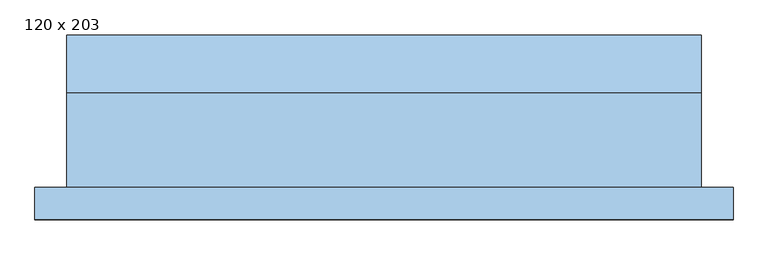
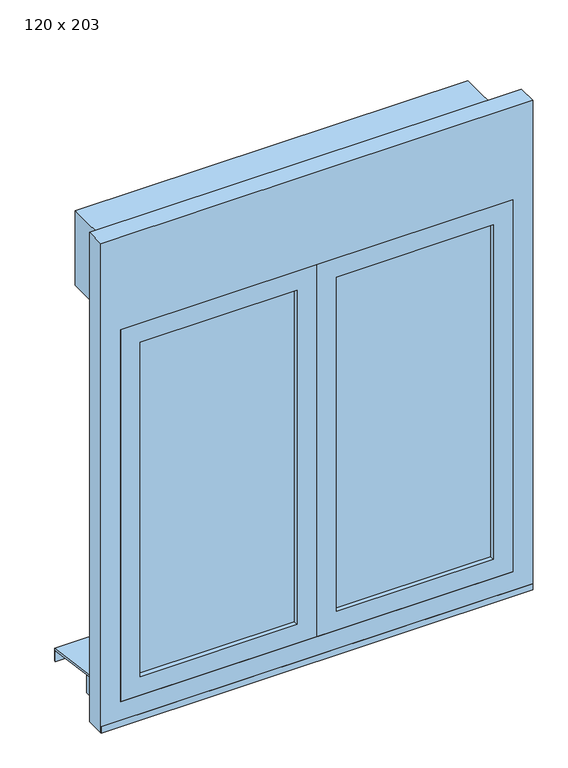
"""IFC4 building model written with IfcOpenShell, lengths in millimetres: window geometry, AD 2-flg - Verblendet : 120 x 203."""

from ifc_helpers import new_model, si_unit, frame, origin, place, context, project, spatial, polyline, outline, extrude, source, transform, mapped, element, save


def window_120_x_203_22d15c25(model_context):
    return source(origin(), model_context, "Body", "SweptSolid", [
        extrude(outline(polyline([(200.0, 810.0), (200.0, 770.0), (195.0, 770.0), (195.0, 805.7364044), (-89.0, 844.9364044), (-89.0, 850.0), (200.0, 810.0)])), frame((-680.0, 0.0, 0.0), z_axis=(1.0, 0.0, 0.0), x_axis=(0.0, 1.0, 0.0)), (0.0, 0.0, 1.0), 1200.0),
        extrude(outline(polyline([(520.0, 90.0), (520.0, -89.0), (-680.0, -89.0), (-680.0, 90.0), (520.0, 90.0)])), frame((0.0, 0.0, 2050.0), z_axis=(0.0, 0.0, 1.0), x_axis=(1.0, 0.0, 0.0)), (0.0, 0.0, 1.0), 240.0),
        extrude(outline(polyline([(460.0, -134.0), (-20.0, -134.0), (-20.0, -104.0), (460.0, -104.0), (460.0, -134.0)])), frame((0.0, 0.0, 910.0), z_axis=(0.0, 0.0, 1.0), x_axis=(1.0, 0.0, 0.0)), (0.0, 0.0, 1.0), 1080.0),
        extrude(outline(polyline([(-140.0, -134.0), (-620.0, -134.0), (-620.0, -104.0), (-140.0, -104.0), (-140.0, -134.0)])), frame((0.0, 0.0, 910.0), z_axis=(0.0, 0.0, 1.0), x_axis=(1.0, 0.0, 0.0)), (0.0, 0.0, 1.0), 1080.0),
        extrude(outline(polyline([(-89.0, 770.0), (-89.0, 844.9364044), (30.0, 828.5110523), (30.0, 770.0), (-89.0, 770.0)])), frame((-680.0, 0.0, 0.0), z_axis=(1.0, 0.0, 0.0), x_axis=(0.0, 1.0, 0.0)), (0.0, 0.0, 1.0), 1200.0),
        extrude(outline(polyline([(2050.0, -80.0), (2050.0, -680.0), (850.0, -680.0), (850.0, -80.0), (2050.0, -80.0)]), holes=[polyline([(1990.0, -140.0), (910.0, -140.0), (910.0, -620.0), (1990.0, -620.0), (1990.0, -140.0)])]), frame((0.0, -149.0, 0.0), z_axis=(0.0, 1.0, 0.0), x_axis=(0.0, 0.0, 1.0)), (0.0, 0.0, 1.0), 60.0),
        extrude(outline(polyline([(2050.0, -80.0), (850.0, -80.0), (850.0, 520.0), (2050.0, 520.0), (2050.0, -80.0)]), holes=[polyline([(1990.0, -20.0), (1990.0, 460.0), (910.0, 460.0), (910.0, -20.0), (1990.0, -20.0)])]), frame((0.0, -149.0, 0.0), z_axis=(0.0, 1.0, 0.0), x_axis=(0.0, 0.0, 1.0)), (0.0, 0.0, 1.0), 60.0),
        extrude(outline(polyline([(2350.0, 580.0), (2350.0, -740.0), (770.0, -740.0), (770.0, 580.0), (2350.0, 580.0)]), holes=[polyline([(2050.0, 520.0), (850.0, 520.0), (850.0, -680.0), (2050.0, -680.0), (2050.0, 520.0)])]), frame((0.0, -149.0, 0.0), z_axis=(0.0, 1.0, 0.0), x_axis=(0.0, 0.0, 1.0)), (0.0, 0.0, 1.0), 60.0),
        extrude(outline(polyline([(580.0, -149.0), (580.0, -150.0), (-740.0, -150.0), (-740.0, -149.0), (580.0, -149.0)])), frame((0.0, 0.0, 770.0), z_axis=(0.0, 0.0, 1.0), x_axis=(1.0, 0.0, 0.0)), (0.0, 0.0, 1.0), 20.0),
    ])


if __name__ == "__main__":
    model = new_model("IFC4")
    model_context = context("Model", 3, world=origin())
    ifc_project = project(units=[si_unit("LENGTHUNIT", "METRE", prefix="MILLI")], contexts=[model_context])
    site = spatial("IfcSite", under=ifc_project)
    building = spatial("IfcBuilding", under=site)
    placement = place(None, origin())
    window_120_x_203_shape = window_120_x_203_22d15c25(model_context)
    element("IfcWindow", 1, ObjectType="AD 2-flg - Verblendet : 120 x 203", at=placement, inside=building, context=model_context, shape_type="MappedRepresentation", body=[
        mapped(window_120_x_203_shape, transform((0.0, 0.0, 0.0), x_axis=(1.0, 0.0, 0.0), y_axis=(0.0, 1.0, 0.0), z_axis=(0.0, 0.0, 1.0))),
    ])
    save(model, "model.ifc")
